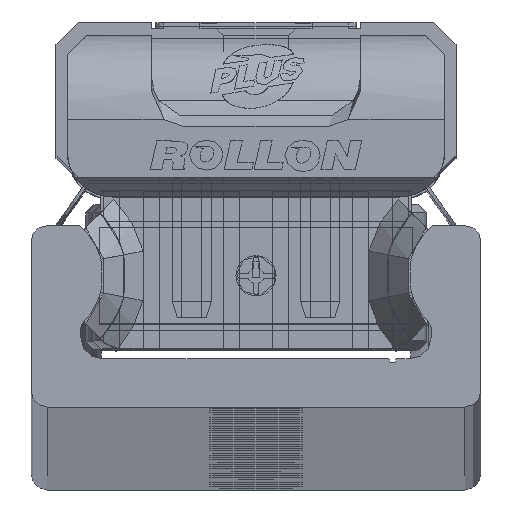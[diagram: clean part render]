
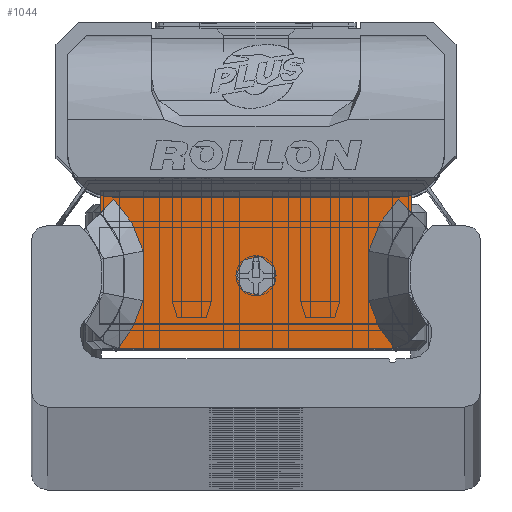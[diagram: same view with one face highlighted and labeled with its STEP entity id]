
A CAD part, top view. The second image highlights one B-rep face of the part: STEP entity #1044.
In plain terms, the highlighted planar face has unit normal (0, 0, 1) as drawn and (0, 0, -1) by its records, which use the part's own axes.
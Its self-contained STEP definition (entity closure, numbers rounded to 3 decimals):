
#1044 = ADVANCED_FACE( '', ( #2678, #2679 ), #2680, .F. );
#2678 = FACE_BOUND( '', #5157, .T. );
#2679 = FACE_OUTER_BOUND( '', #5158, .T. );
#2680 = PLANE( '', #5159 );
#5157 = EDGE_LOOP( '', ( #8037 ) );
#5158 = EDGE_LOOP( '', ( #8038, #8039, #8040, #8041, #8042, #8043, #8044, #8045, #8046, #8047, #8048, #8049, #8050, #8051 ) );
#5159 = AXIS2_PLACEMENT_3D( '', #8052, #8053, #8054 );
#8037 = ORIENTED_EDGE( '', *, *, #13712, .T. );
#8038 = ORIENTED_EDGE( '', *, *, #13713, .F. );
#8039 = ORIENTED_EDGE( '', *, *, #13714, .T. );
#8040 = ORIENTED_EDGE( '', *, *, #13715, .T. );
#8041 = ORIENTED_EDGE( '', *, *, #13716, .T. );
#8042 = ORIENTED_EDGE( '', *, *, #13717, .T. );
#8043 = ORIENTED_EDGE( '', *, *, #13718, .T. );
#8044 = ORIENTED_EDGE( '', *, *, #13719, .T. );
#8045 = ORIENTED_EDGE( '', *, *, #13487, .T. );
#8046 = ORIENTED_EDGE( '', *, *, #13720, .T. );
#8047 = ORIENTED_EDGE( '', *, *, #13721, .T. );
#8048 = ORIENTED_EDGE( '', *, *, #13553, .T. );
#8049 = ORIENTED_EDGE( '', *, *, #13310, .T. );
#8050 = ORIENTED_EDGE( '', *, *, #13465, .T. );
#8051 = ORIENTED_EDGE( '', *, *, #13722, .T. );
#8052 = CARTESIAN_POINT( '', ( 9.7, 4.89, -10.6 ) );
#8053 = DIRECTION( '', ( 0., 0., 1. ) );
#8054 = DIRECTION( '', ( 1., 0., 0. ) );
#13310 = EDGE_CURVE( '', #15677, #15675, #15678, .T. );
#13465 = EDGE_CURVE( '', #15675, #15957, #15958, .T. );
#13487 = EDGE_CURVE( '', #15993, #15991, #15994, .T. );
#13553 = EDGE_CURVE( '', #16098, #15677, #16105, .T. );
#13712 = EDGE_CURVE( '', #16375, #16375, #16376, .T. );
#13713 = EDGE_CURVE( '', #16377, #16257, #16378, .T. );
#13714 = EDGE_CURVE( '', #16377, #16379, #16380, .T. );
#13715 = EDGE_CURVE( '', #16379, #16381, #16382, .T. );
#13716 = EDGE_CURVE( '', #16381, #16383, #16384, .T. );
#13717 = EDGE_CURVE( '', #16383, #16319, #16385, .T. );
#13718 = EDGE_CURVE( '', #16319, #16386, #16387, .T. );
#13719 = EDGE_CURVE( '', #16386, #15993, #16388, .T. );
#13720 = EDGE_CURVE( '', #15991, #15867, #16389, .T. );
#13721 = EDGE_CURVE( '', #15867, #16098, #16390, .T. );
#13722 = EDGE_CURVE( '', #15957, #16257, #16391, .T. );
#15675 = VERTEX_POINT( '', #19157 );
#15677 = VERTEX_POINT( '', #19160 );
#15678 = B_SPLINE_CURVE_WITH_KNOTS( '', 2, ( #19161, #19162, #19163 ), .UNSPECIFIED., .F., .F., ( 3, 3 ), ( 0., 1. ), .UNSPECIFIED. );
#15867 = VERTEX_POINT( '', #19391 );
#15957 = VERTEX_POINT( '', #19503 );
#15958 = B_SPLINE_CURVE_WITH_KNOTS( '', 2, ( #19504, #19505, #19506 ), .UNSPECIFIED., .F., .F., ( 3, 3 ), ( 0., 1. ), .UNSPECIFIED. );
#15991 = VERTEX_POINT( '', #19547 );
#15993 = VERTEX_POINT( '', #19550 );
#15994 = B_SPLINE_CURVE_WITH_KNOTS( '', 2, ( #19551, #19552, #19553 ), .UNSPECIFIED., .F., .F., ( 3, 3 ), ( 0., 1. ), .UNSPECIFIED. );
#16098 = VERTEX_POINT( '', #19690 );
#16105 = B_SPLINE_CURVE_WITH_KNOTS( '', 2, ( #19709, #19710, #19711 ), .UNSPECIFIED., .F., .F., ( 3, 3 ), ( 0.1, 1. ), .UNSPECIFIED. );
#16257 = VERTEX_POINT( '', #19913 );
#16319 = VERTEX_POINT( '', #19986 );
#16375 = VERTEX_POINT( '', #20075 );
#16376 = CIRCLE( '', #20076, 1.25 );
#16377 = VERTEX_POINT( '', #20077 );
#16378 = LINE( '', #20078, #20079 );
#16379 = VERTEX_POINT( '', #20080 );
#16380 = CIRCLE( '', #20081, 2.8 );
#16381 = VERTEX_POINT( '', #20082 );
#16382 = LINE( '', #20083, #20084 );
#16383 = VERTEX_POINT( '', #20085 );
#16384 = CIRCLE( '', #20086, 2.8 );
#16385 = LINE( '', #20087, #20088 );
#16386 = VERTEX_POINT( '', #20089 );
#16387 = LINE( '', #20090, #20091 );
#16388 = B_SPLINE_CURVE_WITH_KNOTS( '', 2, ( #20092, #20093, #20094, #20095, #20096 ), .UNSPECIFIED., .F., .F., ( 3, 2, 3 ), ( 0., 0.5, 1. ), .UNSPECIFIED. );
#16389 = B_SPLINE_CURVE_WITH_KNOTS( '', 2, ( #20097, #20098, #20099 ), .UNSPECIFIED., .F., .F., ( 3, 3 ), ( 0., 1. ), .UNSPECIFIED. );
#16390 = LINE( '', #20100, #20101 );
#16391 = LINE( '', #20102, #20103 );
#19157 = CARTESIAN_POINT( '', ( -7.031, 1.144, -10.6 ) );
#19160 = CARTESIAN_POINT( '', ( -7.031, -1.944, -10.6 ) );
#19161 = CARTESIAN_POINT( '', ( -7.031, -1.944, -10.6 ) );
#19162 = CARTESIAN_POINT( '', ( -6.929, -0.4, -10.6 ) );
#19163 = CARTESIAN_POINT( '', ( -7.031, 1.144, -10.6 ) );
#19391 = CARTESIAN_POINT( '', ( 8.59, -4.893, -10.6 ) );
#19503 = CARTESIAN_POINT( '', ( -8.853, 4.366, -10.6 ) );
#19504 = CARTESIAN_POINT( '', ( -7.031, 1.144, -10.6 ) );
#19505 = CARTESIAN_POINT( '', ( -7.477, 3.018, -10.6 ) );
#19506 = CARTESIAN_POINT( '', ( -8.853, 4.366, -10.6 ) );
#19547 = CARTESIAN_POINT( '', ( 7.031, -1.944, -10.6 ) );
#19550 = CARTESIAN_POINT( '', ( 7.031, 1.144, -10.6 ) );
#19551 = CARTESIAN_POINT( '', ( 7.031, 1.144, -10.6 ) );
#19552 = CARTESIAN_POINT( '', ( 6.929, -0.4, -10.6 ) );
#19553 = CARTESIAN_POINT( '', ( 7.031, -1.944, -10.6 ) );
#19690 = CARTESIAN_POINT( '', ( -8.59, -4.893, -10.6 ) );
#19709 = CARTESIAN_POINT( '', ( -8.587, -4.89, -10.6 ) );
#19710 = CARTESIAN_POINT( '', ( -7.432, -3.63, -10.6 ) );
#19711 = CARTESIAN_POINT( '', ( -7.031, -1.944, -10.6 ) );
#19913 = CARTESIAN_POINT( '', ( -9.7, 3.494, -10.6 ) );
#19986 = CARTESIAN_POINT( '', ( 9.7, 3.497, -10.6 ) );
#20075 = CARTESIAN_POINT( '', ( 1.25, -0.39, -10.6 ) );
#20076 = AXIS2_PLACEMENT_3D( '', #24522, #24523, #24524 );
#20077 = CARTESIAN_POINT( '', ( -9.7, 4.612, -10.6 ) );
#20078 = CARTESIAN_POINT( '', ( -9.7, 4.89, -10.6 ) );
#20079 = VECTOR( '', #24525, 1000. );
#20080 = CARTESIAN_POINT( '', ( -8.95, 4.51, -10.6 ) );
#20081 = AXIS2_PLACEMENT_3D( '', #24526, #24527, #24528 );
#20082 = CARTESIAN_POINT( '', ( 8.95, 4.51, -10.6 ) );
#20083 = CARTESIAN_POINT( '', ( 9.7, 4.51, -10.6 ) );
#20084 = VECTOR( '', #24529, 1000. );
#20085 = CARTESIAN_POINT( '', ( 9.7, 4.612, -10.6 ) );
#20086 = AXIS2_PLACEMENT_3D( '', #24530, #24531, #24532 );
#20087 = CARTESIAN_POINT( '', ( 9.7, 4.89, -10.6 ) );
#20088 = VECTOR( '', #24533, 1000. );
#20089 = CARTESIAN_POINT( '', ( 8.853, 4.366, -10.6 ) );
#20090 = CARTESIAN_POINT( '', ( 9.7, 3.501, -10.6 ) );
#20091 = VECTOR( '', #24534, 1000. );
#20092 = CARTESIAN_POINT( '', ( 8.853, 4.366, -10.6 ) );
#20093 = CARTESIAN_POINT( '', ( 8.182, 3.708, -10.6 ) );
#20094 = CARTESIAN_POINT( '', ( 7.715, 2.883, -10.6 ) );
#20095 = CARTESIAN_POINT( '', ( 7.249, 2.058, -10.6 ) );
#20096 = CARTESIAN_POINT( '', ( 7.031, 1.144, -10.6 ) );
#20097 = CARTESIAN_POINT( '', ( 7.031, -1.944, -10.6 ) );
#20098 = CARTESIAN_POINT( '', ( 7.429, -3.615, -10.6 ) );
#20099 = CARTESIAN_POINT( '', ( 8.588, -4.89, -10.6 ) );
#20100 = CARTESIAN_POINT( '', ( 9.7, -4.89, -10.6 ) );
#20101 = VECTOR( '', #24535, 1000. );
#20102 = CARTESIAN_POINT( '', ( -8.853, 4.366, -10.6 ) );
#20103 = VECTOR( '', #24536, 1000. );
#24522 = CARTESIAN_POINT( '', ( 0., -0.39, -10.6 ) );
#24523 = DIRECTION( '', ( 0., 0., 1. ) );
#24524 = DIRECTION( '', ( 1., 0., 0. ) );
#24525 = DIRECTION( '', ( 0., -1., 0. ) );
#24526 = CARTESIAN_POINT( '', ( -8.95, 7.31, -10.6 ) );
#24527 = DIRECTION( '', ( 0., 0., 1. ) );
#24528 = DIRECTION( '', ( 1., 0., 0. ) );
#24529 = DIRECTION( '', ( 1., 0., 0. ) );
#24530 = CARTESIAN_POINT( '', ( 8.95, 7.31, -10.6 ) );
#24531 = DIRECTION( '', ( 0., 0., 1. ) );
#24532 = DIRECTION( '', ( 1., 0., 0. ) );
#24533 = DIRECTION( '', ( 0., -1., 0. ) );
#24534 = DIRECTION( '', ( -0.7, 0.714, 0. ) );
#24535 = DIRECTION( '', ( -1., 0., 0. ) );
#24536 = DIRECTION( '', ( -0.7, -0.714, 0. ) );
